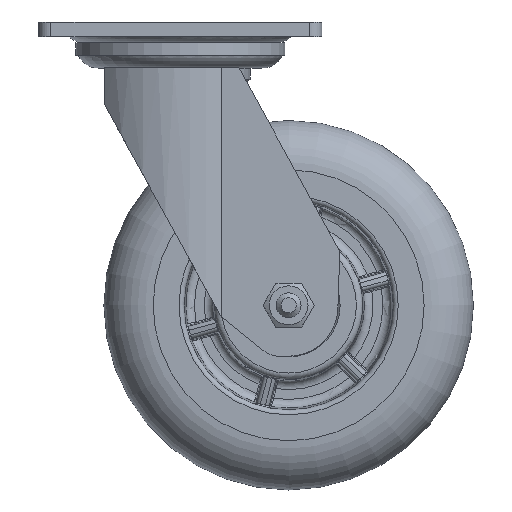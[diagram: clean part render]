
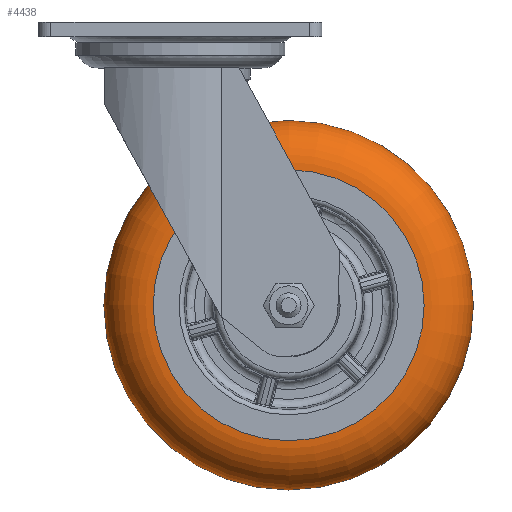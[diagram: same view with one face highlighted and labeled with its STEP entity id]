
A CAD part, front view. The second image highlights one B-rep face of the part: STEP entity #4438.
In plain terms, the highlighted toroidal (fillet/blend) face has major radius 55 mm and minor radius 20 mm.
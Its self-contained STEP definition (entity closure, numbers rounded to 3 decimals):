
#381=TOROIDAL_SURFACE('',#17596,55.,20.);
#4438=ADVANCED_FACE('',(#4986,#4987),#381,.T.);
#4986=FACE_BOUND('',#6143,.T.);
#4987=FACE_BOUND('',#6144,.T.);
#6143=EDGE_LOOP('',(#10887));
#6144=EDGE_LOOP('',(#10888));
#10887=ORIENTED_EDGE('',*,*,#14785,.F.);
#10888=ORIENTED_EDGE('',*,*,#14787,.F.);
#12413=VERTEX_POINT('',#48770);
#12415=VERTEX_POINT('',#48775);
#14785=EDGE_CURVE('',#12413,#12413,#15803,.T.);
#14787=EDGE_CURVE('',#12415,#12415,#15805,.T.);
#15803=CIRCLE('',#17590,55.);
#15805=CIRCLE('',#17593,75.);
#17590=AXIS2_PLACEMENT_3D('',#48769,#21702,#21703);
#17593=AXIS2_PLACEMENT_3D('',#48774,#21708,#21709);
#17596=AXIS2_PLACEMENT_3D('',#48778,#21714,#21715);
#21702=DIRECTION('',(0.,-1.,0.));
#21703=DIRECTION('',(0.,0.,1.));
#21708=DIRECTION('',(0.,1.,0.));
#21709=DIRECTION('',(0.,0.,1.));
#21714=DIRECTION('',(0.,1.,0.));
#21715=DIRECTION('',(0.,0.,-1.));
#48769=CARTESIAN_POINT('',(44.,-25.5,-115.));
#48770=CARTESIAN_POINT('',(44.,-25.5,-60.));
#48774=CARTESIAN_POINT('',(44.,-5.5,-115.));
#48775=CARTESIAN_POINT('',(44.,-5.5,-40.));
#48778=CARTESIAN_POINT('',(44.,-5.5,-115.));
